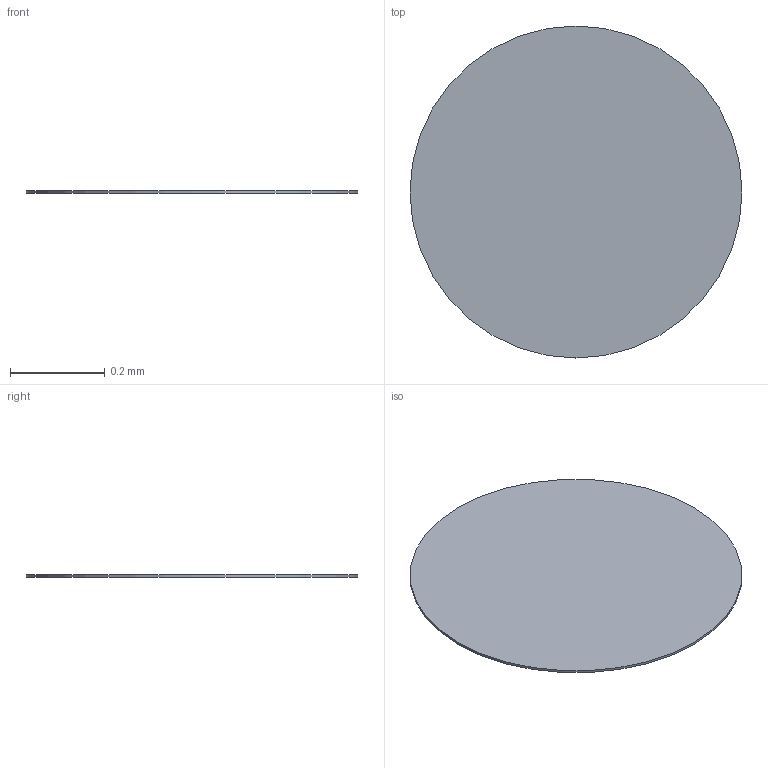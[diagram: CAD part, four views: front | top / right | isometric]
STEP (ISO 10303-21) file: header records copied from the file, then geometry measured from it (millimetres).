
FILE_DESCRIPTION(('BRL-CAD AP214 short cylinder seam fixture'),'2;1');
FILE_NAME('ap214_short_cylinder_seam.stp','2026-07-18T00:00:00',('BRL-CAD'),('BRL-CAD'),'','','');
FILE_SCHEMA(('AUTOMOTIVE_DESIGN { 1 0 10303 214 3 1 1 1 }'));
Length unit declared in the file: millimetre
Products named in the file (1): short_cylinder_seam
Bounding box: 0.7 x 0.7 x 0.01 mm (x, y, z)
Volume: 0 mm3; surface area: 0.8 mm2
Topology: 1 solids, 1 shells, 3 faces, 3 edges, 2 vertices
Faces by surface type: plane 2, cylinder 1
Full cylindrical faces by diameter (mm): 0.7 x1
Entity records: 51 total; most frequent: ORIENTED_EDGE 6, CARTESIAN_POINT 4, DIRECTION 3, AXIS2_PLACEMENT_3D 3, EDGE_CURVE 3, EDGE_LOOP 3, FACE_OUTER_BOUND 3, ADVANCED_FACE 3
